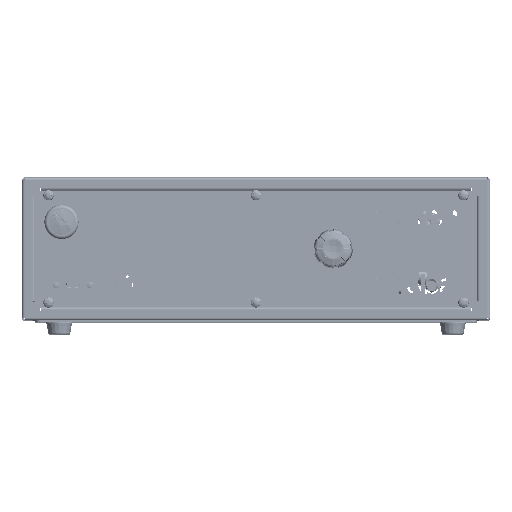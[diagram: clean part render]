
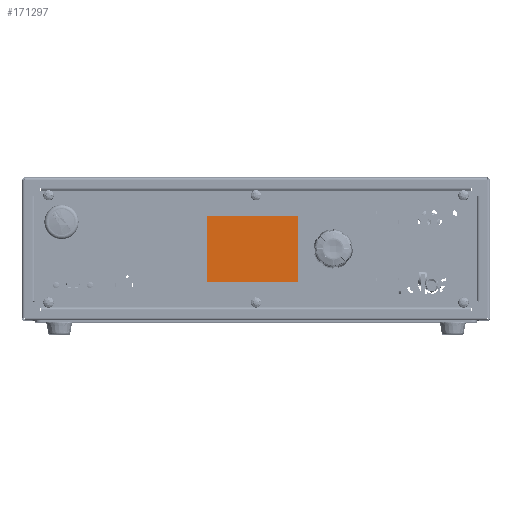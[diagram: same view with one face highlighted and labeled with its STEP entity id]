
A CAD part, top view. The second image highlights one B-rep face of the part: STEP entity #171297.
In plain terms, the highlighted planar face has unit normal (0, 0, 1).
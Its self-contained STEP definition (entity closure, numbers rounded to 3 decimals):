
#4720 = EDGE_LOOP ( 'NONE', ( #91601, #47454, #89492, #133877 ) ) ;
#9327 = EDGE_CURVE ( 'NONE', #169236, #147944, #144467, .T. ) ;
#11238 = EDGE_CURVE ( 'NONE', #147944, #165761, #130941, .T. ) ;
#12019 = EDGE_CURVE ( 'NONE', #165761, #132192, #40717, .T. ) ;
#13605 = EDGE_CURVE ( 'NONE', #132192, #169236, #133138, .T. ) ;
#36219 = VECTOR ( 'NONE', #150596, 1000. ) ;
#38778 = FACE_OUTER_BOUND ( 'NONE', #4720, .T. ) ;
#40717 = LINE ( 'NONE', #64450, #144560 ) ;
#47454 = ORIENTED_EDGE ( 'NONE', *, *, #11238, .T. ) ;
#63595 = CARTESIAN_POINT ( 'NONE',  ( 0., 0., 6.2 ) ) ;
#64450 = CARTESIAN_POINT ( 'NONE',  ( 39.5, -28.7, 6.2 ) ) ;
#65448 = DIRECTION ( 'NONE',  ( 0., 1., 0. ) ) ;
#69873 = CARTESIAN_POINT ( 'NONE',  ( 39.5, 28.7, 6.2 ) ) ;
#70981 = CARTESIAN_POINT ( 'NONE',  ( -39.5, 28.7, 6.2 ) ) ;
#72154 = CARTESIAN_POINT ( 'NONE',  ( 39.5, -28.7, 6.2 ) ) ;
#78419 = DIRECTION ( 'NONE',  ( 0., 0., 1. ) ) ;
#89492 = ORIENTED_EDGE ( 'NONE', *, *, #12019, .T. ) ;
#90041 = DIRECTION ( 'NONE',  ( -1., 0., 0. ) ) ;
#91024 = VECTOR ( 'NONE', #90041, 1000. ) ;
#91601 = ORIENTED_EDGE ( 'NONE', *, *, #9327, .T. ) ;
#119824 = DIRECTION ( 'NONE',  ( 1., 0., 0. ) ) ;
#120127 = AXIS2_PLACEMENT_3D ( 'NONE', #63595, #78419, #177253 ) ;
#120442 = CARTESIAN_POINT ( 'NONE',  ( 39.5, -28.7, 6.2 ) ) ;
#126507 = VECTOR ( 'NONE', #119824, 1000. ) ;
#130515 = CARTESIAN_POINT ( 'NONE',  ( 39.5, 28.7, 6.2 ) ) ;
#130941 = LINE ( 'NONE', #120442, #126507 ) ;
#132192 = VERTEX_POINT ( 'NONE', #130515 ) ;
#133138 = LINE ( 'NONE', #69873, #91024 ) ;
#133877 = ORIENTED_EDGE ( 'NONE', *, *, #13605, .T. ) ;
#134775 = PLANE ( 'NONE',  #120127 ) ;
#144467 = LINE ( 'NONE', #150207, #36219 ) ;
#144560 = VECTOR ( 'NONE', #65448, 1000. ) ;
#147944 = VERTEX_POINT ( 'NONE', #178901 ) ;
#150207 = CARTESIAN_POINT ( 'NONE',  ( -39.5, -28.7, 6.2 ) ) ;
#150596 = DIRECTION ( 'NONE',  ( 0., -1., 0. ) ) ;
#165761 = VERTEX_POINT ( 'NONE', #72154 ) ;
#169236 = VERTEX_POINT ( 'NONE', #70981 ) ;
#171297 = ADVANCED_FACE ( 'NONE', ( #38778 ), #134775, .T. ) ;
#177253 = DIRECTION ( 'NONE',  ( 1., 0., 0. ) ) ;
#178901 = CARTESIAN_POINT ( 'NONE',  ( -39.5, -28.7, 6.2 ) ) ;
